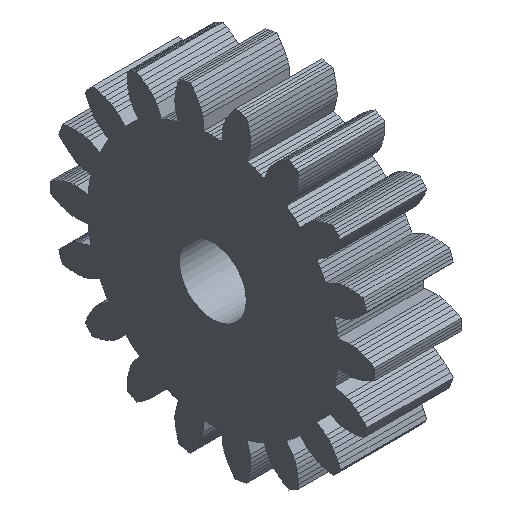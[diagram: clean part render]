
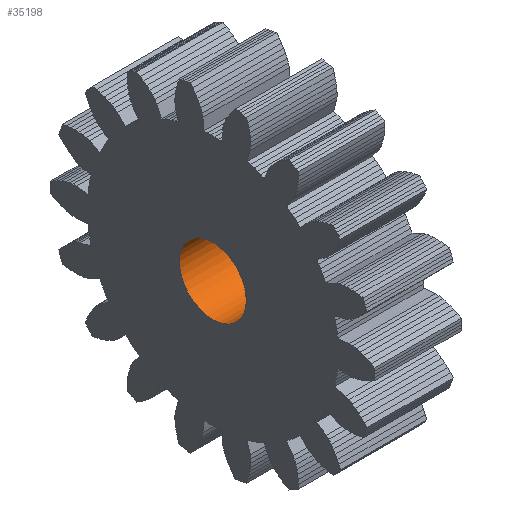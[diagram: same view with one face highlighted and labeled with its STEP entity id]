
A CAD part, isometric view. The second image highlights one B-rep face of the part: STEP entity #35198.
In plain terms, the highlighted cylindrical face has radius 3.1 mm (diameter 6.2 mm), a full revolution.
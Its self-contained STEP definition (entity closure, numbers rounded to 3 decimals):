
#72 = PLANE('',#73);
#73 = AXIS2_PLACEMENT_3D('',#74,#75,#76);
#74 = CARTESIAN_POINT('',(17.5,0.,0.));
#75 = DIRECTION('',(1.,0.,0.));
#76 = DIRECTION('',(0.,1.,0.));
#126 = PLANE('',#127);
#127 = AXIS2_PLACEMENT_3D('',#128,#129,#130);
#128 = CARTESIAN_POINT('',(9.5,0.,0.));
#129 = DIRECTION('',(1.,0.,0.));
#130 = DIRECTION('',(0.,1.,0.));
#12802 = EDGE_CURVE('',#12803,#12803,#12805,.T.);
#12803 = VERTEX_POINT('',#12804);
#12804 = CARTESIAN_POINT('',(9.5,3.1,0.));
#12805 = SURFACE_CURVE('',#12806,(#12811,#12822),.PCURVE_S1.);
#12806 = CIRCLE('',#12807,3.1);
#12807 = AXIS2_PLACEMENT_3D('',#12808,#12809,#12810);
#12808 = CARTESIAN_POINT('',(9.5,0.,0.));
#12809 = DIRECTION('',(-1.,0.,0.));
#12810 = DIRECTION('',(0.,1.,0.));
#12811 = PCURVE('',#126,#12812);
#12812 = DEFINITIONAL_REPRESENTATION('',(#12813),#12821);
#12813 = ( BOUNDED_CURVE() B_SPLINE_CURVE(2,(#12814,#12815,#12816,#12817
    ,#12818,#12819,#12820),.UNSPECIFIED.,.T.,.F.) 
B_SPLINE_CURVE_WITH_KNOTS((1,2,2,2,2,1),(-2.094,0.,
    2.094,4.189,6.283,8.378),
.UNSPECIFIED.) CURVE() GEOMETRIC_REPRESENTATION_ITEM() 
RATIONAL_B_SPLINE_CURVE((1.,0.5,1.,0.5,1.,0.5,1.)) REPRESENTATION_ITEM(
  '') );
#12814 = CARTESIAN_POINT('',(3.1,0.));
#12815 = CARTESIAN_POINT('',(3.1,-5.369));
#12816 = CARTESIAN_POINT('',(-1.55,-2.685));
#12817 = CARTESIAN_POINT('',(-6.2,0.));
#12818 = CARTESIAN_POINT('',(-1.55,2.685));
#12819 = CARTESIAN_POINT('',(3.1,5.369));
#12820 = CARTESIAN_POINT('',(3.1,0.));
#12821 = ( GEOMETRIC_REPRESENTATION_CONTEXT(2) 
PARAMETRIC_REPRESENTATION_CONTEXT() REPRESENTATION_CONTEXT('2D SPACE',''
  ) );
#12822 = PCURVE('',#12823,#12828);
#12823 = CYLINDRICAL_SURFACE('',#12824,3.1);
#12824 = AXIS2_PLACEMENT_3D('',#12825,#12826,#12827);
#12825 = CARTESIAN_POINT('',(9.,0.,0.));
#12826 = DIRECTION('',(-1.,0.,0.));
#12827 = DIRECTION('',(0.,1.,0.));
#12828 = DEFINITIONAL_REPRESENTATION('',(#12829),#12833);
#12829 = LINE('',#12830,#12831);
#12830 = CARTESIAN_POINT('',(-6.283,-0.5));
#12831 = VECTOR('',#12832,1.);
#12832 = DIRECTION('',(1.,-0.));
#12833 = ( GEOMETRIC_REPRESENTATION_CONTEXT(2) 
PARAMETRIC_REPRESENTATION_CONTEXT() REPRESENTATION_CONTEXT('2D SPACE',''
  ) );
#23122 = EDGE_CURVE('',#23123,#23123,#23125,.T.);
#23123 = VERTEX_POINT('',#23124);
#23124 = CARTESIAN_POINT('',(17.5,3.1,0.));
#23125 = SURFACE_CURVE('',#23126,(#23131,#23142),.PCURVE_S1.);
#23126 = CIRCLE('',#23127,3.1);
#23127 = AXIS2_PLACEMENT_3D('',#23128,#23129,#23130);
#23128 = CARTESIAN_POINT('',(17.5,0.,0.));
#23129 = DIRECTION('',(-1.,0.,0.));
#23130 = DIRECTION('',(0.,1.,0.));
#23131 = PCURVE('',#72,#23132);
#23132 = DEFINITIONAL_REPRESENTATION('',(#23133),#23141);
#23133 = ( BOUNDED_CURVE() B_SPLINE_CURVE(2,(#23134,#23135,#23136,#23137
    ,#23138,#23139,#23140),.UNSPECIFIED.,.T.,.F.) 
B_SPLINE_CURVE_WITH_KNOTS((1,2,2,2,2,1),(-2.094,0.,
    2.094,4.189,6.283,8.378),
.UNSPECIFIED.) CURVE() GEOMETRIC_REPRESENTATION_ITEM() 
RATIONAL_B_SPLINE_CURVE((1.,0.5,1.,0.5,1.,0.5,1.)) REPRESENTATION_ITEM(
  '') );
#23134 = CARTESIAN_POINT('',(3.1,0.));
#23135 = CARTESIAN_POINT('',(3.1,-5.369));
#23136 = CARTESIAN_POINT('',(-1.55,-2.685));
#23137 = CARTESIAN_POINT('',(-6.2,0.));
#23138 = CARTESIAN_POINT('',(-1.55,2.685));
#23139 = CARTESIAN_POINT('',(3.1,5.369));
#23140 = CARTESIAN_POINT('',(3.1,0.));
#23141 = ( GEOMETRIC_REPRESENTATION_CONTEXT(2) 
PARAMETRIC_REPRESENTATION_CONTEXT() REPRESENTATION_CONTEXT('2D SPACE',''
  ) );
#23142 = PCURVE('',#12823,#23143);
#23143 = DEFINITIONAL_REPRESENTATION('',(#23144),#23148);
#23144 = LINE('',#23145,#23146);
#23145 = CARTESIAN_POINT('',(-6.283,-8.5));
#23146 = VECTOR('',#23147,1.);
#23147 = DIRECTION('',(1.,-0.));
#23148 = ( GEOMETRIC_REPRESENTATION_CONTEXT(2) 
PARAMETRIC_REPRESENTATION_CONTEXT() REPRESENTATION_CONTEXT('2D SPACE',''
  ) );
#35198 = ADVANCED_FACE('',(#35199),#12823,.F.);
#35199 = FACE_BOUND('',#35200,.T.);
#35200 = EDGE_LOOP('',(#35201,#35202,#35223,#35224));
#35201 = ORIENTED_EDGE('',*,*,#12802,.T.);
#35202 = ORIENTED_EDGE('',*,*,#35203,.T.);
#35203 = EDGE_CURVE('',#12803,#23123,#35204,.T.);
#35204 = SEAM_CURVE('',#35205,(#35209,#35216),.PCURVE_S1.);
#35205 = LINE('',#35206,#35207);
#35206 = CARTESIAN_POINT('',(9.,3.1,0.));
#35207 = VECTOR('',#35208,1.);
#35208 = DIRECTION('',(1.,0.,0.));
#35209 = PCURVE('',#12823,#35210);
#35210 = DEFINITIONAL_REPRESENTATION('',(#35211),#35215);
#35211 = LINE('',#35212,#35213);
#35212 = CARTESIAN_POINT('',(-6.283,0.));
#35213 = VECTOR('',#35214,1.);
#35214 = DIRECTION('',(-0.,-1.));
#35215 = ( GEOMETRIC_REPRESENTATION_CONTEXT(2) 
PARAMETRIC_REPRESENTATION_CONTEXT() REPRESENTATION_CONTEXT('2D SPACE',''
  ) );
#35216 = PCURVE('',#12823,#35217);
#35217 = DEFINITIONAL_REPRESENTATION('',(#35218),#35222);
#35218 = LINE('',#35219,#35220);
#35219 = CARTESIAN_POINT('',(-0.,0.));
#35220 = VECTOR('',#35221,1.);
#35221 = DIRECTION('',(-0.,-1.));
#35222 = ( GEOMETRIC_REPRESENTATION_CONTEXT(2) 
PARAMETRIC_REPRESENTATION_CONTEXT() REPRESENTATION_CONTEXT('2D SPACE',''
  ) );
#35223 = ORIENTED_EDGE('',*,*,#23122,.F.);
#35224 = ORIENTED_EDGE('',*,*,#35203,.F.);
